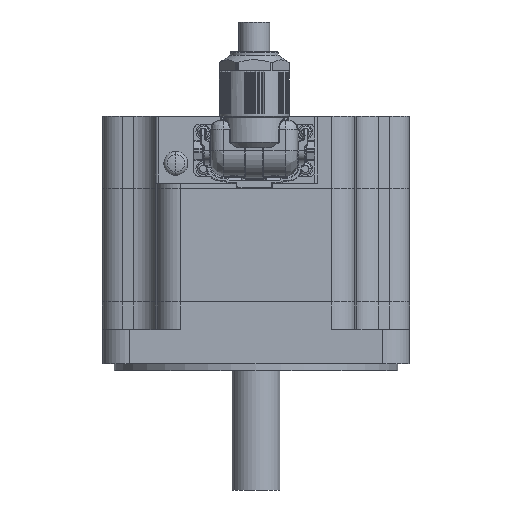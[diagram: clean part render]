
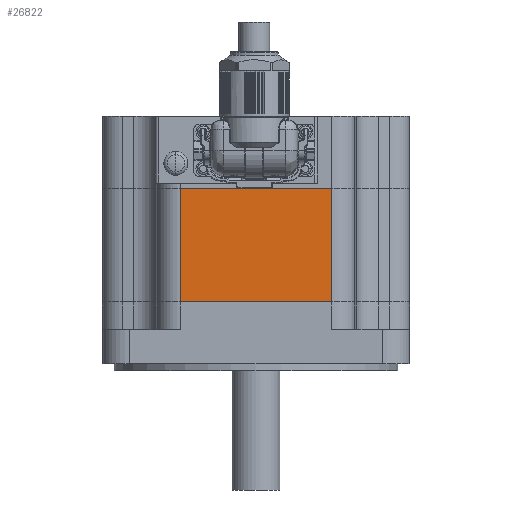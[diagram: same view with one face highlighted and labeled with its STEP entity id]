
A CAD part, front view. The second image highlights one B-rep face of the part: STEP entity #26822.
In plain terms, the highlighted planar face has unit normal (0, -1, 0).
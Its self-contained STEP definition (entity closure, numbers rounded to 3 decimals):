
#681 = VERTEX_POINT ( 'NONE', #14781 ) ;
#799 = VERTEX_POINT ( 'NONE', #36809 ) ;
#1276 = LINE ( 'NONE', #28810, #11708 ) ;
#3109 = CARTESIAN_POINT ( 'NONE',  ( -45., -45., 10. ) ) ;
#3844 = LINE ( 'NONE', #24698, #35647 ) ;
#4297 = LINE ( 'NONE', #30881, #26947 ) ;
#4417 = DIRECTION ( 'NONE',  ( -1., 0., 0. ) ) ;
#6461 = PLANE ( 'NONE',  #24492 ) ;
#6672 = DIRECTION ( 'NONE',  ( 0., 0., -1. ) ) ;
#7279 = ORIENTED_EDGE ( 'NONE', *, *, #34700, .F. ) ;
#7734 = ORIENTED_EDGE ( 'NONE', *, *, #15519, .T. ) ;
#9460 = DIRECTION ( 'NONE',  ( -1., 0., 0. ) ) ;
#10408 = ORIENTED_EDGE ( 'NONE', *, *, #15849, .T. ) ;
#11413 = ORIENTED_EDGE ( 'NONE', *, *, #21170, .F. ) ;
#11708 = VECTOR ( 'NONE', #31377, 1000. ) ;
#12760 = DIRECTION ( 'NONE',  ( 0., 0., 1. ) ) ;
#14781 = CARTESIAN_POINT ( 'NONE',  ( -22.14, -45., 51.4 ) ) ;
#15519 = EDGE_CURVE ( 'NONE', #28784, #681, #17951, .T. ) ;
#15849 = EDGE_CURVE ( 'NONE', #681, #38018, #4297, .T. ) ;
#16806 = CARTESIAN_POINT ( 'NONE',  ( 22.14, -45., 51.4 ) ) ;
#17951 = LINE ( 'NONE', #38054, #27737 ) ;
#21170 = EDGE_CURVE ( 'NONE', #28784, #799, #1276, .T. ) ;
#24492 = AXIS2_PLACEMENT_3D ( 'NONE', #3109, #33817, #12760 ) ;
#24698 = CARTESIAN_POINT ( 'NONE',  ( -45., -45., 18.1 ) ) ;
#24807 = EDGE_LOOP ( 'NONE', ( #7279, #11413, #7734, #10408 ) ) ;
#25808 = CARTESIAN_POINT ( 'NONE',  ( -22.14, -45., 18.1 ) ) ;
#26822 = ADVANCED_FACE ( 'NONE', ( #30066 ), #6461, .F. ) ;
#26947 = VECTOR ( 'NONE', #6672, 1000. ) ;
#27737 = VECTOR ( 'NONE', #9460, 1000. ) ;
#28784 = VERTEX_POINT ( 'NONE', #16806 ) ;
#28810 = CARTESIAN_POINT ( 'NONE',  ( 22.14, -45., 72.5 ) ) ;
#30066 = FACE_OUTER_BOUND ( 'NONE', #24807, .T. ) ;
#30881 = CARTESIAN_POINT ( 'NONE',  ( -22.14, -45., 72.5 ) ) ;
#31377 = DIRECTION ( 'NONE',  ( 0., 0., -1. ) ) ;
#33817 = DIRECTION ( 'NONE',  ( 0., 1., 0. ) ) ;
#34700 = EDGE_CURVE ( 'NONE', #799, #38018, #3844, .T. ) ;
#35647 = VECTOR ( 'NONE', #4417, 1000. ) ;
#36809 = CARTESIAN_POINT ( 'NONE',  ( 22.14, -45., 18.1 ) ) ;
#38018 = VERTEX_POINT ( 'NONE', #25808 ) ;
#38054 = CARTESIAN_POINT ( 'NONE',  ( -45., -45., 51.4 ) ) ;
